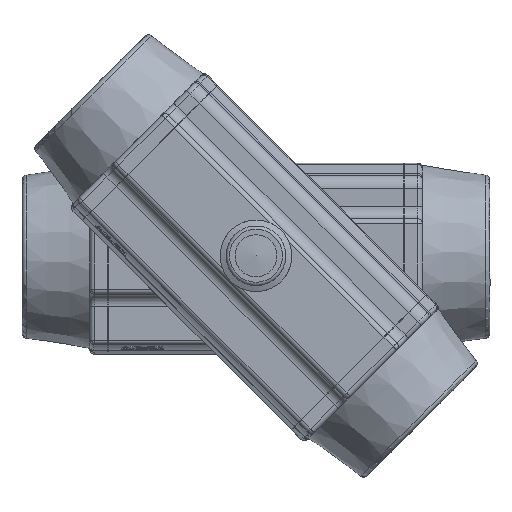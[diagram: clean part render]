
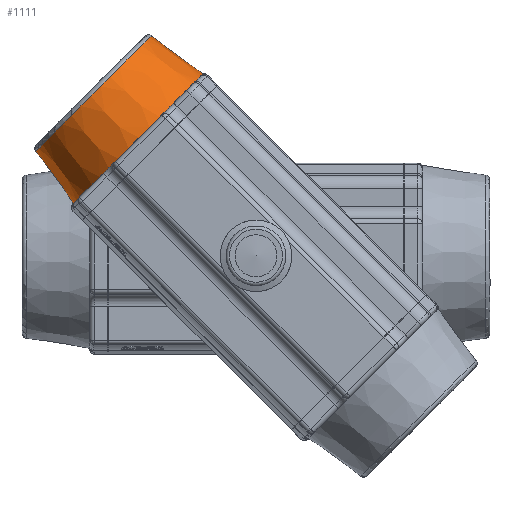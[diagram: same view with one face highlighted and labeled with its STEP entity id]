
A CAD part, top view. The second image highlights one B-rep face of the part: STEP entity #1111.
In plain terms, the highlighted conical face has half-angle 9 degrees and reference radius 109 mm.
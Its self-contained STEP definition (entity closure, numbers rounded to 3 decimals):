
#1111 = ADVANCED_FACE( '', ( #2595, #2596 ), #2597, .T. );
#2595 = FACE_BOUND( '', #6070, .T. );
#2596 = FACE_OUTER_BOUND( '', #6071, .T. );
#2597 = CONICAL_SURFACE( '', #6072, 109., 0.157 );
#6070 = EDGE_LOOP( '', ( #12248 ) );
#6071 = EDGE_LOOP( '', ( #12249, #12250, #12251, #12252, #12253, #12254, #12255, #12256, #12257, #12258, #12259, #12260 ) );
#6072 = AXIS2_PLACEMENT_3D( '', #12261, #12262, #12263 );
#12248 = ORIENTED_EDGE( '', *, *, #16747, .T. );
#12249 = ORIENTED_EDGE( '', *, *, #16748, .T. );
#12250 = ORIENTED_EDGE( '', *, *, #16749, .T. );
#12251 = ORIENTED_EDGE( '', *, *, #16750, .T. );
#12252 = ORIENTED_EDGE( '', *, *, #16751, .T. );
#12253 = ORIENTED_EDGE( '', *, *, #16673, .T. );
#12254 = ORIENTED_EDGE( '', *, *, #16752, .T. );
#12255 = ORIENTED_EDGE( '', *, *, #16184, .T. );
#12256 = ORIENTED_EDGE( '', *, *, #16753, .T. );
#12257 = ORIENTED_EDGE( '', *, *, #16754, .T. );
#12258 = ORIENTED_EDGE( '', *, *, #16502, .T. );
#12259 = ORIENTED_EDGE( '', *, *, #16659, .T. );
#12260 = ORIENTED_EDGE( '', *, *, #15889, .T. );
#12261 = CARTESIAN_POINT( '', ( -197.5, 0., 0. ) );
#12262 = DIRECTION( '', ( 1., 0., 0. ) );
#12263 = DIRECTION( '', ( 0., 0., 1. ) );
#15889 = EDGE_CURVE( '', #18061, #17998, #18062, .T. );
#16184 = EDGE_CURVE( '', #18572, #18570, #18573, .T. );
#16502 = EDGE_CURVE( '', #19091, #19095, #19097, .T. );
#16659 = EDGE_CURVE( '', #19095, #18061, #19332, .T. );
#16673 = EDGE_CURVE( '', #19355, #19353, #19356, .T. );
#16747 = EDGE_CURVE( '', #19464, #19464, #19465, .T. );
#16748 = EDGE_CURVE( '', #17998, #19466, #19467, .T. );
#16749 = EDGE_CURVE( '', #19466, #19468, #19469, .T. );
#16750 = EDGE_CURVE( '', #19468, #19470, #19471, .T. );
#16751 = EDGE_CURVE( '', #19470, #19355, #19472, .T. );
#16752 = EDGE_CURVE( '', #19353, #18572, #19473, .T. );
#16753 = EDGE_CURVE( '', #18570, #19474, #19475, .T. );
#16754 = EDGE_CURVE( '', #19474, #19091, #19476, .T. );
#17998 = VERTEX_POINT( '', #21847 );
#18061 = VERTEX_POINT( '', #21943 );
#18062 = CIRCLE( '', #21944, 109. );
#18570 = VERTEX_POINT( '', #23631 );
#18572 = VERTEX_POINT( '', #23633 );
#18573 = CIRCLE( '', #23634, 109. );
#19091 = VERTEX_POINT( '', #25112 );
#19095 = VERTEX_POINT( '', #25126 );
#19097 = CIRCLE( '', #25128, 109. );
#19332 = CIRCLE( '', #25769, 109. );
#19353 = VERTEX_POINT( '', #25797 );
#19355 = VERTEX_POINT( '', #25799 );
#19356 = CIRCLE( '', #25800, 109. );
#19464 = VERTEX_POINT( '', #26166 );
#19465 = CIRCLE( '', #26167, 97.052 );
#19466 = VERTEX_POINT( '', #26168 );
#19467 = CIRCLE( '', #26169, 109. );
#19468 = VERTEX_POINT( '', #26170 );
#19469 = CIRCLE( '', #26171, 109. );
#19470 = VERTEX_POINT( '', #26172 );
#19471 = CIRCLE( '', #26173, 109. );
#19472 = CIRCLE( '', #26174, 109. );
#19473 = CIRCLE( '', #26175, 109. );
#19474 = VERTEX_POINT( '', #26176 );
#19475 = CIRCLE( '', #26177, 109. );
#19476 = CIRCLE( '', #26178, 109. );
#21847 = CARTESIAN_POINT( '', ( -197.5, 90.755, 60.371 ) );
#21943 = CARTESIAN_POINT( '', ( -197.5, -98.5, 46.677 ) );
#21944 = AXIS2_PLACEMENT_3D( '', #30652, #30653, #30654 );
#23631 = CARTESIAN_POINT( '', ( -197.5, 91.565, -59.134 ) );
#23633 = CARTESIAN_POINT( '', ( -197.5, 93.345, -56.282 ) );
#23634 = AXIS2_PLACEMENT_3D( '', #30944, #30945, #30946 );
#25112 = CARTESIAN_POINT( '', ( -197.5, -108.936, -3.73 ) );
#25126 = CARTESIAN_POINT( '', ( -197.5, -108.989, 1.563 ) );
#25128 = AXIS2_PLACEMENT_3D( '', #31291, #31292, #31293 );
#25769 = AXIS2_PLACEMENT_3D( '', #31446, #31447, #31448 );
#25797 = CARTESIAN_POINT( '', ( -197.5, 104.704, -30.301 ) );
#25799 = CARTESIAN_POINT( '', ( -197.5, 105.686, -26.673 ) );
#25800 = AXIS2_PLACEMENT_3D( '', #31462, #31463, #31464 );
#26166 = CARTESIAN_POINT( '', ( -272.939, 0., -97.052 ) );
#26167 = AXIS2_PLACEMENT_3D( '', #31539, #31540, #31541 );
#26168 = CARTESIAN_POINT( '', ( -197.5, 94.979, 53.478 ) );
#26169 = AXIS2_PLACEMENT_3D( '', #31542, #31543, #31544 );
#26170 = CARTESIAN_POINT( '', ( -197.5, 104.603, 30.647 ) );
#26171 = AXIS2_PLACEMENT_3D( '', #31545, #31546, #31547 );
#26172 = CARTESIAN_POINT( '', ( -197.5, 105.686, 26.673 ) );
#26173 = AXIS2_PLACEMENT_3D( '', #31548, #31549, #31550 );
#26174 = AXIS2_PLACEMENT_3D( '', #31551, #31552, #31553 );
#26175 = AXIS2_PLACEMENT_3D( '', #31554, #31555, #31556 );
#26176 = CARTESIAN_POINT( '', ( -197.5, -107.608, -17.367 ) );
#26177 = AXIS2_PLACEMENT_3D( '', #31557, #31558, #31559 );
#26178 = AXIS2_PLACEMENT_3D( '', #31560, #31561, #31562 );
#30652 = CARTESIAN_POINT( '', ( -197.5, 0., 0. ) );
#30653 = DIRECTION( '', ( -1., 0., 0. ) );
#30654 = DIRECTION( '', ( 0., 0., 1. ) );
#30944 = CARTESIAN_POINT( '', ( -197.5, 0., 0. ) );
#30945 = DIRECTION( '', ( -1., 0., 0. ) );
#30946 = DIRECTION( '', ( 0., 0., 1. ) );
#31291 = CARTESIAN_POINT( '', ( -197.5, 0., 0. ) );
#31292 = DIRECTION( '', ( -1., 0., 0. ) );
#31293 = DIRECTION( '', ( 0., 0., 1. ) );
#31446 = CARTESIAN_POINT( '', ( -197.5, 0., 0. ) );
#31447 = DIRECTION( '', ( -1., 0., 0. ) );
#31448 = DIRECTION( '', ( 0., 0., 1. ) );
#31462 = CARTESIAN_POINT( '', ( -197.5, 0., 0. ) );
#31463 = DIRECTION( '', ( -1., 0., 0. ) );
#31464 = DIRECTION( '', ( 0., 0., 1. ) );
#31539 = CARTESIAN_POINT( '', ( -272.939, 0., 0. ) );
#31540 = DIRECTION( '', ( 1., 0., 0. ) );
#31541 = DIRECTION( '', ( 0., 0., -1. ) );
#31542 = CARTESIAN_POINT( '', ( -197.5, 0., 0. ) );
#31543 = DIRECTION( '', ( -1., 0., 0. ) );
#31544 = DIRECTION( '', ( 0., 0., 1. ) );
#31545 = CARTESIAN_POINT( '', ( -197.5, 0., 0. ) );
#31546 = DIRECTION( '', ( -1., 0., 0. ) );
#31547 = DIRECTION( '', ( 0., 0., 1. ) );
#31548 = CARTESIAN_POINT( '', ( -197.5, 0., 0. ) );
#31549 = DIRECTION( '', ( -1., 0., 0. ) );
#31550 = DIRECTION( '', ( 0., 0., 1. ) );
#31551 = CARTESIAN_POINT( '', ( -197.5, 0., 0. ) );
#31552 = DIRECTION( '', ( -1., 0., 0. ) );
#31553 = DIRECTION( '', ( 0., 0., 1. ) );
#31554 = CARTESIAN_POINT( '', ( -197.5, 0., 0. ) );
#31555 = DIRECTION( '', ( -1., 0., 0. ) );
#31556 = DIRECTION( '', ( 0., 0., 1. ) );
#31557 = CARTESIAN_POINT( '', ( -197.5, 0., 0. ) );
#31558 = DIRECTION( '', ( -1., 0., 0. ) );
#31559 = DIRECTION( '', ( 0., 0., 1. ) );
#31560 = CARTESIAN_POINT( '', ( -197.5, 0., 0. ) );
#31561 = DIRECTION( '', ( -1., 0., 0. ) );
#31562 = DIRECTION( '', ( 0., 0., 1. ) );
